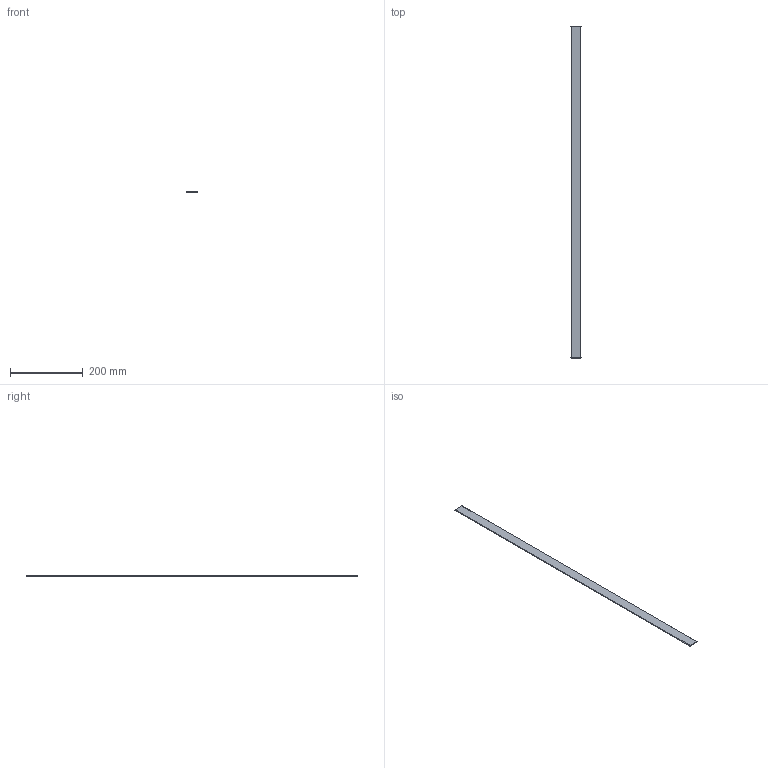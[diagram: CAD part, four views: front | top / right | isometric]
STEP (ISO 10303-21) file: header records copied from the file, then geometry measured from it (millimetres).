
FILE_DESCRIPTION(/* description */ (''),/* implementation_level */ '2;1');
FILE_NAME(/* name */ 'C:/Users/drich/Desktop/BM-1 v1.step',/* time_stamp */ '2020-01-04T15:38:33-06:00',/* author */ (''),/* organization */ (''),/* preprocessor_version */ 'ST-DEVELOPER v18',/* originating_system */ 'Autodesk Translation Framework v8.12.0.6',/* authorisation */ '');
FILE_SCHEMA (('AUTOMOTIVE_DESIGN { 1 0 10303 214 3 1 1 }'));
Length unit declared in the file: inch
Products named in the file (1): BM-1
Bounding box: 28.42 x 914.4 x 2.36 mm (x, y, z)
Volume: 60352.6 mm3; surface area: 54623.5 mm2
Topology: 1 solids, 1 shells, 6 faces, 12 edges, 8 vertices
Faces by surface type: plane 4, cylinder 2
Entity records: 202 total; most frequent: DIRECTION 30, CARTESIAN_POINT 27, ORIENTED_EDGE 24, EDGE_CURVE 12, AXIS2_PLACEMENT_3D 11, LINE 8, VECTOR 8, VERTEX_POINT 8
